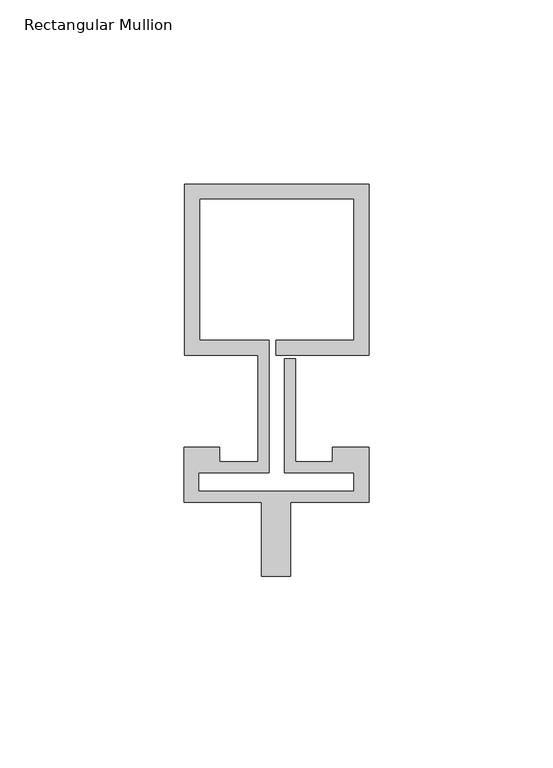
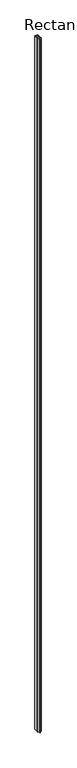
"""IFC4 building model written with IfcOpenShell, lengths in millimetres: member geometry, Rectangular Mullion : Reynaers_CW-50_Mullion-Transom_Horizontal_46.4mm_Facecap-06A."""

from ifc_helpers import new_model, si_unit, frame, origin, place, context, project, spatial, polyline, outline, extrude, source, transform, mapped, element, save


def rectangular_mullion_dd002d8b(model_context):
    return source(origin(), model_context, "Body", "SweptSolid", [
        extrude(outline(polyline([(-24.8004059, 58.9), (25.1995941, 58.9), (25.1995941, 12.5), (0.0, 12.5), (0.0, 16.5), (21.1995941, 16.5), (21.1995941, 54.9), (-20.8004059, 54.9), (-20.8004059, 16.5), (-1.9004059, 16.5), (-1.9004059, -19.5), (-20.994845, -19.5), (-20.994845, -24.4191338), (21.1995941, -24.4191338), (21.1995941, -19.5), (2.2995941, -19.5), (2.2995941, 11.5), (5.2995941, 11.5), (5.2995941, -16.5), (15.2996495, -16.5), (15.2996495, -12.5), (25.1995941, -12.5), (25.1995941, -27.5), (4.004855, -27.5), (4.004855, -47.5), (-3.995145, -47.5), (-3.995145, -27.5), (-24.994845, -27.5), (-24.994845, -12.5), (-15.2996495, -12.5), (-15.2996495, -16.5), (-4.9004059, -16.5), (-4.9004059, 12.5), (-24.8004059, 12.5), (-24.8004059, 58.9)])), frame((0.0, 0.0, -12000.0), z_axis=(0.0, 0.0, 1.0), x_axis=(1.0, 0.0, 0.0)), (0.0, 0.0, 1.0), 12000.0),
    ])


if __name__ == "__main__":
    model = new_model("IFC4")
    model_context = context("Model", 3, world=origin())
    ifc_project = project(units=[si_unit("LENGTHUNIT", "METRE", prefix="MILLI")], contexts=[model_context])
    site = spatial("IfcSite", under=ifc_project)
    building = spatial("IfcBuilding", under=site)
    placement = place(None, origin())
    rectangular_mullion_shape = rectangular_mullion_dd002d8b(model_context)
    element("IfcMember", 1, ObjectType="Rectangular Mullion : Reynaers_CW-50_Mullion-Transom_Horizontal_46.4mm_Facecap-06A", at=placement, inside=building, context=model_context, shape_type="MappedRepresentation", body=[
        mapped(rectangular_mullion_shape, transform((0.0, 0.0, 0.0), x_axis=(1.0, 0.0, 0.0), y_axis=(0.0, 1.0, 0.0), z_axis=(0.0, 0.0, 1.0))),
    ])
    save(model, "model.ifc")
